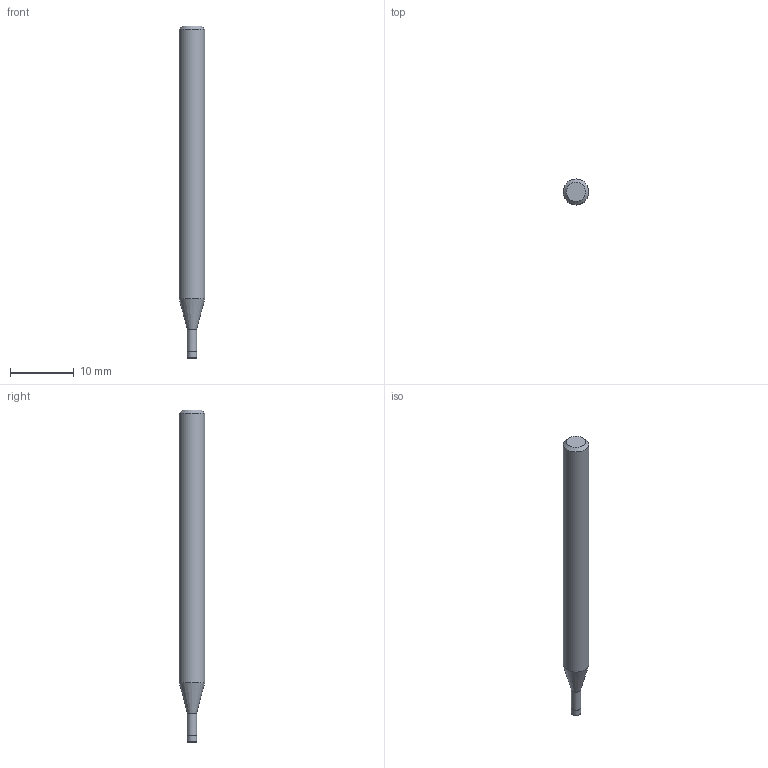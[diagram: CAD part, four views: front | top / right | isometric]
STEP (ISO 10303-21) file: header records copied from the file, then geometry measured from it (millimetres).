
FILE_DESCRIPTION((''),'2;1');
FILE_NAME('C:\Users\nsx150\AppData\Local\Temp\Mastercam 2021\LJSIDMOTM8\TEMP.step','2021-08-03T13:50:29',(''),(''),'STEP Write','Mastercam 2021 ... CNC Software, Inc.','');
FILE_SCHEMA(('AUTOMOTIVE_DESIGN'));
Length unit declared in the file: millimetre
Products named in the file (1): None
Bounding box: 4 x 4 x 52 mm (x, y, z)
Volume: 573 mm3; surface area: 613.6 mm2
Topology: 2 solids, 2 shells, 10 faces, 14 edges, 8 vertices
Faces by surface type: plane 4, cylinder 3, cone 2, torus 1
Full cylindrical faces by diameter (mm): 1.45 x1, 1.5 x1, 4 x1
Entity records: 232 total; most frequent: DIRECTION 40, CARTESIAN_POINT 28, AXIS2_PLACEMENT_3D 20, ORIENTED_EDGE 16, EDGE_LOOP 16, STYLED_ITEM 13, ADVANCED_FACE 10, FACE_BOUND 10
